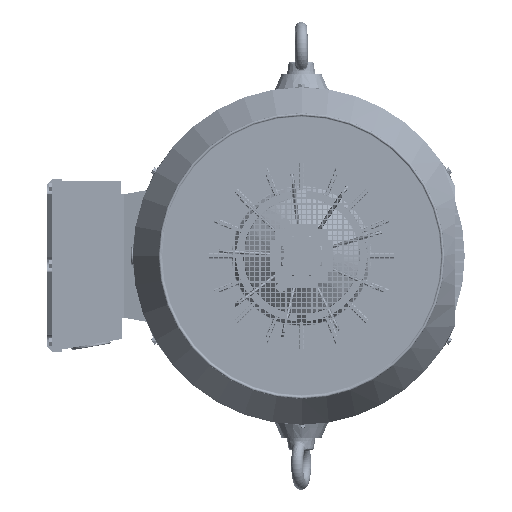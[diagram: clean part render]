
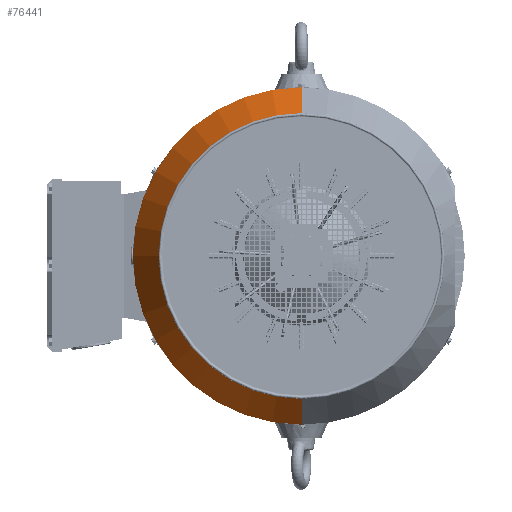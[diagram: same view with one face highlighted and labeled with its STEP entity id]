
A CAD part, left-side view. The second image highlights one B-rep face of the part: STEP entity #76441.
In plain terms, the highlighted conical face has half-angle 30 degrees and reference radius 289 mm.
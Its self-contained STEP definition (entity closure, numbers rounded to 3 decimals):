
#1817 = VECTOR ( 'NONE', #136148, 1000. ) ;
#3606 = CIRCLE ( 'NONE', #183049, 341. ) ;
#17190 = LINE ( 'NONE', #165839, #1817 ) ;
#28201 = CONICAL_SURFACE ( 'NONE', #101973, 289., 0.524 ) ;
#39054 = EDGE_LOOP ( 'NONE', ( #49464, #141756, #265708, #127537 ) ) ;
#44133 = VERTEX_POINT ( 'NONE', #179583 ) ;
#48429 = FACE_OUTER_BOUND ( 'NONE', #39054, .T. ) ;
#49464 = ORIENTED_EDGE ( 'NONE', *, *, #324476, .T. ) ;
#54347 = DIRECTION ( 'NONE',  ( 1., 0., 0. ) ) ;
#65561 = CARTESIAN_POINT ( 'NONE',  ( -662.141, -36.814, 0. ) ) ;
#76441 = ADVANCED_FACE ( 'NONE', ( #48429 ), #28201, .T. ) ;
#82268 = VERTEX_POINT ( 'NONE', #277847 ) ;
#101973 = AXIS2_PLACEMENT_3D ( 'NONE', #322582, #248287, #325825 ) ;
#105281 = VERTEX_POINT ( 'NONE', #225720 ) ;
#105568 = EDGE_CURVE ( 'NONE', #105281, #82268, #3606, .T. ) ;
#115065 = DIRECTION ( 'NONE',  ( 1., 0., 0. ) ) ;
#127537 = ORIENTED_EDGE ( 'NONE', *, *, #264808, .F. ) ;
#132758 = EDGE_CURVE ( 'NONE', #44133, #82268, #17190, .T. ) ;
#136148 = DIRECTION ( 'NONE',  ( 0.866, 0., 0.5 ) ) ;
#141756 = ORIENTED_EDGE ( 'NONE', *, *, #132758, .T. ) ;
#152992 = LINE ( 'NONE', #176175, #276255 ) ;
#155013 = DIRECTION ( 'NONE',  ( 0., 0., -1. ) ) ;
#162996 = DIRECTION ( 'NONE',  ( 0., 0., -1. ) ) ;
#165839 = CARTESIAN_POINT ( 'NONE',  ( -662.141, -36.814, 289. ) ) ;
#176175 = CARTESIAN_POINT ( 'NONE',  ( -662.141, -36.814, -289. ) ) ;
#179583 = CARTESIAN_POINT ( 'NONE',  ( -662.141, -36.814, 289. ) ) ;
#183049 = AXIS2_PLACEMENT_3D ( 'NONE', #280595, #54347, #155013 ) ;
#214592 = VERTEX_POINT ( 'NONE', #289805 ) ;
#225720 = CARTESIAN_POINT ( 'NONE',  ( -572.074, -36.814, -341. ) ) ;
#248287 = DIRECTION ( 'NONE',  ( 1., 0., 0. ) ) ;
#264808 = EDGE_CURVE ( 'NONE', #214592, #105281, #152992, .T. ) ;
#265708 = ORIENTED_EDGE ( 'NONE', *, *, #105568, .F. ) ;
#276255 = VECTOR ( 'NONE', #304918, 1000. ) ;
#277847 = CARTESIAN_POINT ( 'NONE',  ( -572.074, -36.814, 341. ) ) ;
#280595 = CARTESIAN_POINT ( 'NONE',  ( -572.074, -36.814, 0. ) ) ;
#289805 = CARTESIAN_POINT ( 'NONE',  ( -662.141, -36.814, -289. ) ) ;
#304918 = DIRECTION ( 'NONE',  ( 0.866, 0., -0.5 ) ) ;
#319450 = AXIS2_PLACEMENT_3D ( 'NONE', #65561, #115065, #162996 ) ;
#322582 = CARTESIAN_POINT ( 'NONE',  ( -662.141, -36.814, 0. ) ) ;
#324476 = EDGE_CURVE ( 'NONE', #214592, #44133, #324882, .T. ) ;
#324882 = CIRCLE ( 'NONE', #319450, 289. ) ;
#325825 = DIRECTION ( 'NONE',  ( 0., 0., -1. ) ) ;
